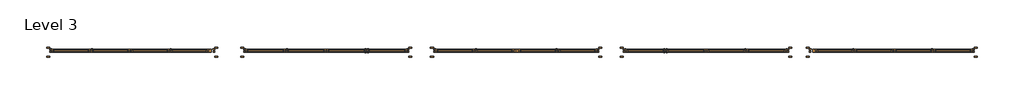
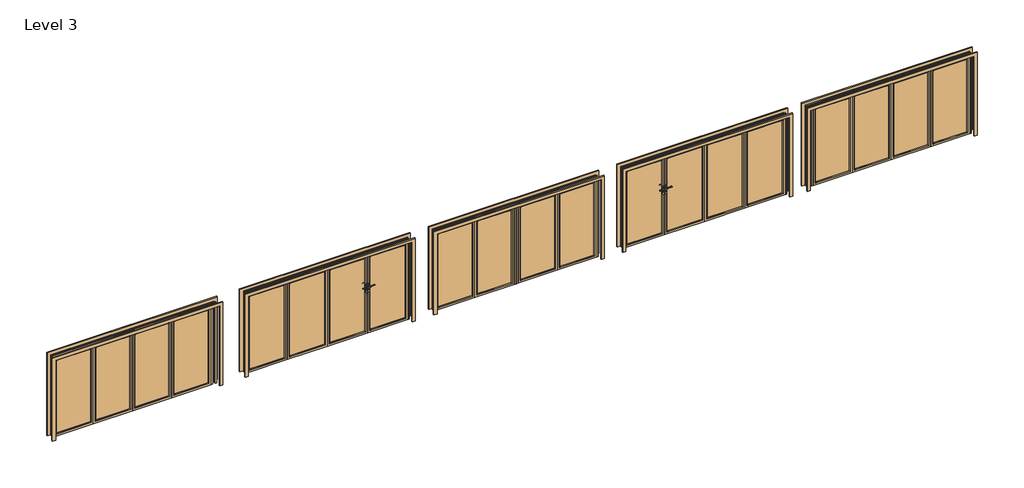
# One storey: 5 doors.
"""IFC4 building model written with IfcOpenShell, lengths in millimetres."""

from ifc_helpers import new_model, si_unit, origin, place, context, project, spatial, transform, mapped, element, save
from components import standard_d86012df, standard_14ae69b2, standard_935e7b8d, standard_4f1c1134, standard_444d65a5

model = new_model("IFC4")

# Units and contexts
model_context = context("Model", 3, world=origin())
ifc_project = project(units=[si_unit("LENGTHUNIT", "METRE", prefix="MILLI")], contexts=[model_context])

# Site, building, storey
site = spatial("IfcSite", under=ifc_project)
building = spatial("IfcBuilding", under=site)
storey = spatial("IfcBuildingStorey", under=building, Name="Level 3", Elevation=6000.0)

# Doors
placement = place(None, origin())
standard_shape = standard_d86012df(model_context)
element("IfcDoor", 1, ObjectType="SMARTS_Visofold1000 : Standard", at=placement, inside=storey, context=model_context, shape_type="MappedRepresentation", body=[
    mapped(standard_shape, transform((-178262.6139854, 24312.6264647, 6100.0), x_axis=(1.0, 0.0, 0.0), y_axis=(0.0, 1.0, 0.0), z_axis=(0.0, 0.0, 1.0))),
])
standard_2_shape = standard_14ae69b2(model_context)
element("IfcDoor", 2, ObjectType="SMARTS_Visofold1000 : Standard", at=placement, inside=storey, context=model_context, shape_type="MappedRepresentation", body=[
    mapped(standard_2_shape, transform((-182762.6139854, 24312.6264647, 6100.0), x_axis=(1.0, 0.0, 0.0), y_axis=(0.0, 1.0, 0.0), z_axis=(0.0, 0.0, 1.0))),
])
standard_3_shape = standard_935e7b8d(model_context)
element("IfcDoor", 3, ObjectType="SMARTS_Visofold1000 : Standard", at=placement, inside=storey, context=model_context, shape_type="MappedRepresentation", body=[
    mapped(standard_3_shape, transform((-187362.6139854, 24312.6264647, 6100.0), x_axis=(1.0, 0.0, 0.0), y_axis=(0.0, 1.0, 0.0), z_axis=(0.0, 0.0, 1.0))),
])
standard_4_shape = standard_4f1c1134(model_context)
element("IfcDoor", 4, ObjectType="SMARTS_Visofold1000 : Standard", at=placement, inside=storey, context=model_context, shape_type="MappedRepresentation", body=[
    mapped(standard_4_shape, transform((-191962.6139854, 24312.6264647, 6100.0), x_axis=(1.0, 0.0, 0.0), y_axis=(0.0, 1.0, 0.0), z_axis=(0.0, 0.0, 1.0))),
])
standard_5_shape = standard_444d65a5(model_context)
element("IfcDoor", 5, ObjectType="SMARTS_Visofold1000 : Standard", at=placement, inside=storey, context=model_context, shape_type="MappedRepresentation", body=[
    mapped(standard_5_shape, transform((-196662.6139854, 24312.6264647, 6100.0), x_axis=(1.0, 0.0, 0.0), y_axis=(0.0, 1.0, 0.0), z_axis=(0.0, 0.0, 1.0))),
])

save(model, "model.ifc")
